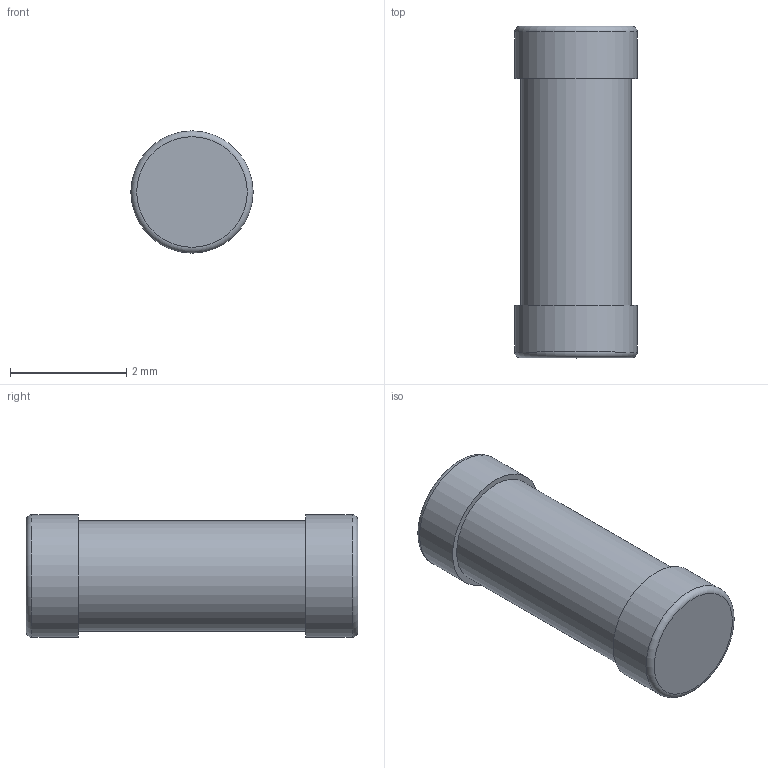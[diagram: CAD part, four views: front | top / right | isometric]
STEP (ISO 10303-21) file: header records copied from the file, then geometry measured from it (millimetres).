
FILE_DESCRIPTION(('STEP AP203'), '1');
FILE_NAME('Ð1-155 0207', '', ('UNSPECIFIED'), ('UNSPECIFIED'), 'ASCON STEP Converter 1.6', 'ASCON Math Kernel', '');
FILE_SCHEMA(('CONFIG_CONTROL_DESIGN'));
Length unit declared in the file: millimetre
Bounding box: 2.1 x 5.7 x 2.1 mm (x, y, z)
Volume: 17.3 mm3; surface area: 42.8 mm2
Topology: 1 solids, 1 shells, 9 faces, 13 edges, 8 vertices
Faces by surface type: plane 4, cylinder 3, torus 2
Full cylindrical faces by diameter (mm): 1.9 x1, 2.1 x2
Entity records: 290 total; most frequent: DIRECTION 36, CARTESIAN_POINT 26, AXIS2_PLACEMENT_3D 18, EDGE_LOOP 16, ORIENTED_EDGE 16, COLOUR_RGB 10, FILL_AREA_STYLE_COLOUR 10, FILL_AREA_STYLE 10
